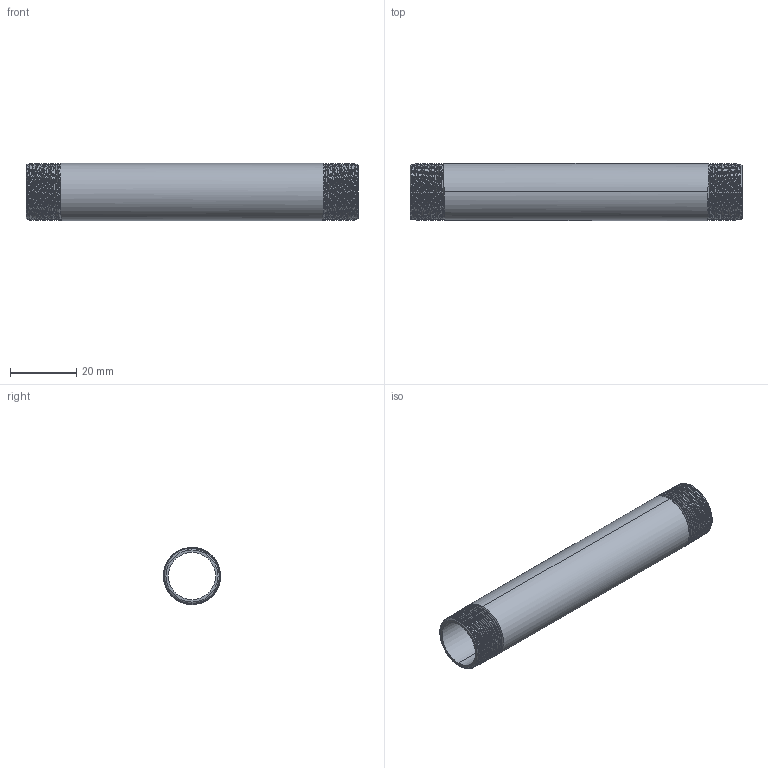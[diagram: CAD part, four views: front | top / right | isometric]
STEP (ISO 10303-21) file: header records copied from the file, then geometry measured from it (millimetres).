
FILE_DESCRIPTION (( 'STEP AP203' ), '1' );
FILE_NAME ('3D_R210_3-8x100_17185120.STEP', '2024-08-16T10:37:41', ( '' ), ( '' ), 'SwSTEP 2.0', 'SolidWorks 2024', '' );
FILE_SCHEMA (( 'CONFIG_CONTROL_DESIGN' ));
Length unit declared in the file: millimetre
Products named in the file (1): 3D_R210_3-8x100_17185120
Bounding box: 100 x 17.19 x 17.2 mm (x, y, z)
Volume: 7161.1 mm3; surface area: 10442.2 mm2
Topology: 1 solids, 1 shells, 76 faces, 218 edges, 144 vertices
Faces by surface type: cone 62, bspline 6, cylinder 4, plane 4
Entity records: 11224 total; most frequent: CARTESIAN_POINT 9454, ORIENTED_EDGE 436, DIRECTION 230, EDGE_CURVE 218, VERTEX_POINT 144, B_SPLINE_CURVE_WITH_KNOTS 132, AXIS2_PLACEMENT_3D 81, EDGE_LOOP 78
